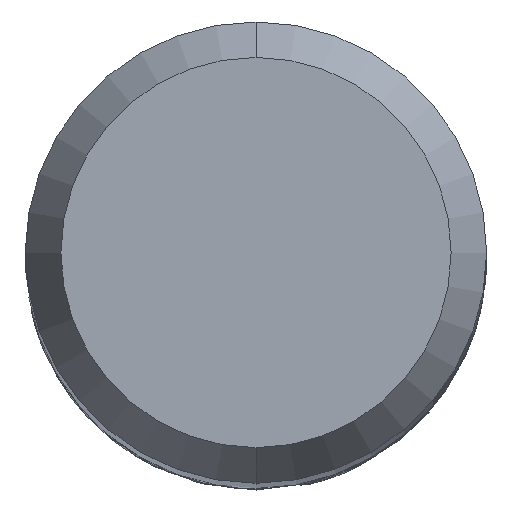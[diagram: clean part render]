
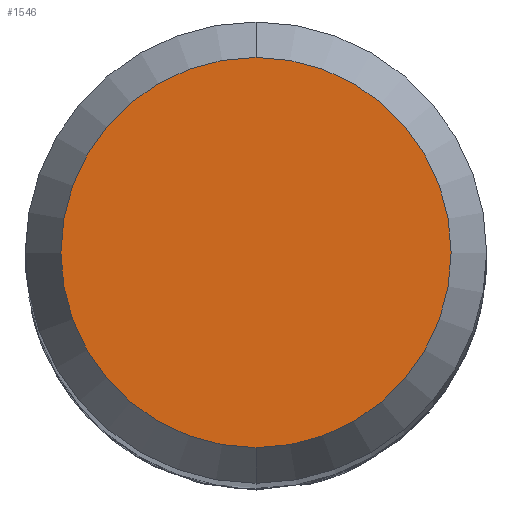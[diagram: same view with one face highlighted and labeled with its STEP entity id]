
A CAD part, top view. The second image highlights one B-rep face of the part: STEP entity #1546.
In plain terms, the highlighted planar face has unit normal (0, 0, 1).
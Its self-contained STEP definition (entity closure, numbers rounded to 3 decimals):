
#1092=VERTEX_POINT('',#2531);
#1546=ADVANCED_FACE('',(#3028),#3029,.T.);
#1696=EDGE_CURVE('',#2056,#1092,#3192,.T.);
#1886=EDGE_CURVE('',#1092,#2056,#3400,.T.);
#2056=VERTEX_POINT('',#3580);
#2531=CARTESIAN_POINT('',(0.0,2.538,0.0));
#3028=FACE_OUTER_BOUND('',#11251,.T.);
#3029=PLANE('',#11252);
#3192=CIRCLE('',#12741,2.538);
#3400=CIRCLE('',#14843,2.538);
#3580=CARTESIAN_POINT('',(0.,-2.538,0.0));
#11251=EDGE_LOOP('',(#17709,#17710));
#11252=AXIS2_PLACEMENT_3D('',#17711,#17712,#17713);
#12741=AXIS2_PLACEMENT_3D('',#17894,#17895,#17896);
#14843=AXIS2_PLACEMENT_3D('',#18090,#18091,#18092);
#17709=ORIENTED_EDGE('',*,*,#1886,.F.);
#17710=ORIENTED_EDGE('',*,*,#1696,.F.);
#17711=CARTESIAN_POINT('',(0.0,1.269,0.0));
#17712=DIRECTION('',(-0.0,0.0,1.0));
#17713=DIRECTION('',(0.0,-1.0,0.0));
#17894=CARTESIAN_POINT('',(0.0,0.0,0.0));
#17895=DIRECTION('',(0.0,0.0,-1.0));
#17896=DIRECTION('',(0.0,1.0,0.0));
#18090=CARTESIAN_POINT('',(0.0,0.0,0.0));
#18091=DIRECTION('',(0.0,0.0,-1.0));
#18092=DIRECTION('',(0.0,1.0,0.0));
